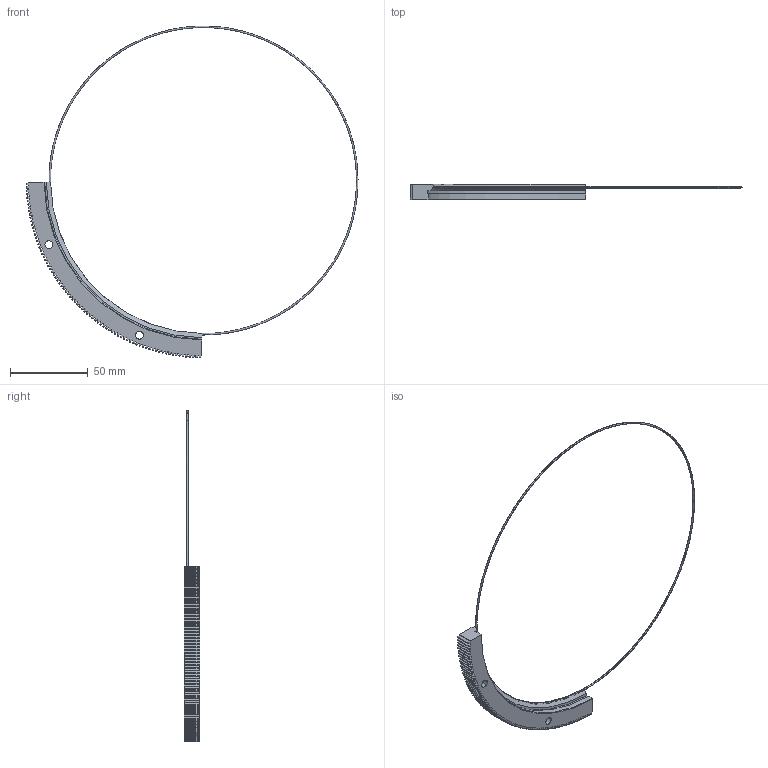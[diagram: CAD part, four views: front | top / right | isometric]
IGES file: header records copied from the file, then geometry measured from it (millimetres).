
Start section: 3D InterOp IGES (v. 2019 1.0.2), Spatial Corp. Copyright (c) 1999-2017.
Global section: file name: RIV 228 R90 P.igs; native system: Spatial Corp.; preprocessor: 3D InterOp GENERIC/IGES 3.0; author: Noname; organization: Noname; date: 20220719.140142; units: millimetre
Bounding box: 213.42 x 10 x 213.42 mm (x, y, z)
Surface area: 14041.9 mm2 (no closed solid volume)
Topology: 0 solids, 0 shells, 505 faces, 3014 edges, 3012 vertices
Faces by surface type: extrusion 330, revolution 175
